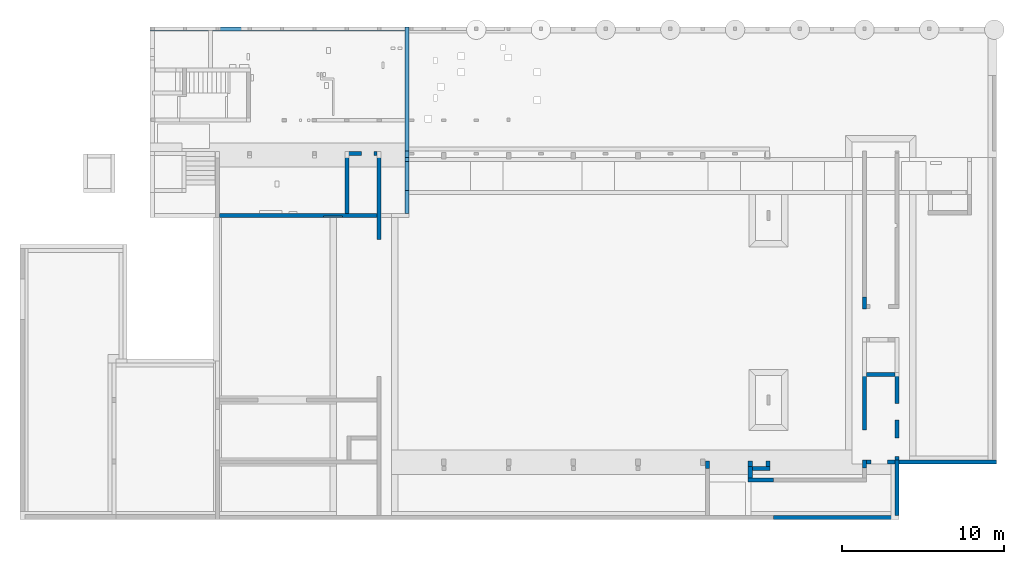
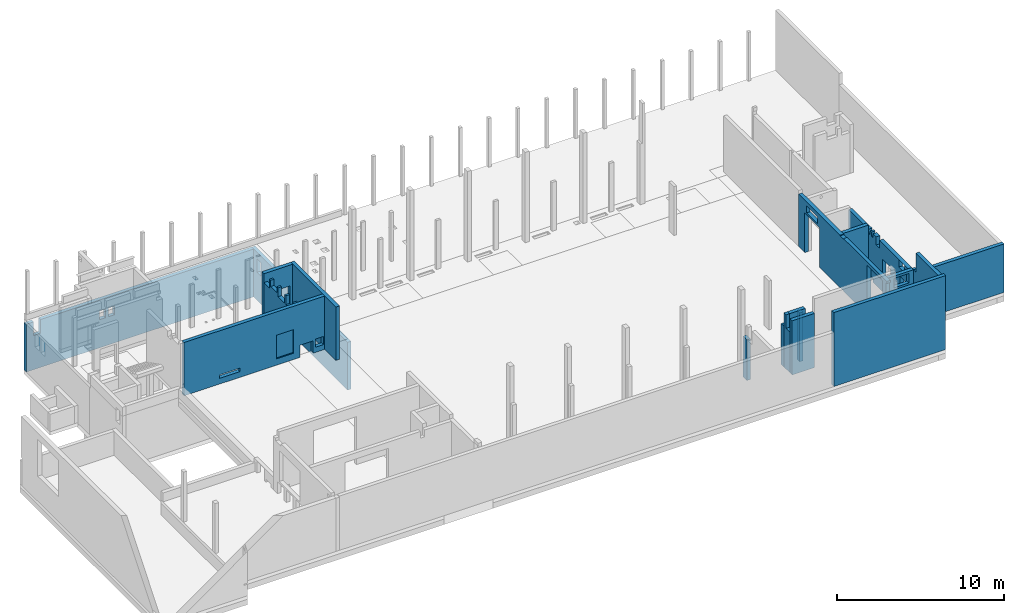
# One storey, part 8 of 12: 19 walls, 35 openings.
"""IFC2X3 building model written with IfcOpenShell, lengths in metres."""

from ifc_helpers import new_model, entity, si_unit, converted_unit, direction, frame, frame_2d, origin, origin_2d_with_axis, place, context, subcontext, project, spatial, polyline, rectangle, extrude, clip, halfspace, bounded_halfspace, material, layer, layer_set, layer_usage, type_object, element, save


model = new_model("IFC2X3")

# Units and contexts
model_context = context("Model", 3, precision=1e-05, world=frame((30.086303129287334, 2.687674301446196, 462.0)), true_north=direction((0.19008937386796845, 0.9817667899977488)))
body_context = subcontext(model_context, "Body", "Model", "MODEL_VIEW")
ifc_project = project(units=[si_unit("LENGTHUNIT", "METRE"), si_unit("AREAUNIT", "SQUARE_METRE"), converted_unit("PLANEANGLEUNIT", "DEGREE", entity("IfcPlaneAngleMeasure", 0.017453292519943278), si_unit("PLANEANGLEUNIT", "RADIAN"), dimensions=[0, 0, 0, 0, 0, 0, 0]), si_unit("VOLUMEUNIT", "CUBIC_METRE")], contexts=[model_context])

# Site, building, storey
site_placement = place(None, origin())
site = spatial("IfcSite", under=ifc_project, at=site_placement, Name="Default", CompositionType="ELEMENT")
building_placement = place(site_placement, origin())
building = spatial("IfcBuilding", under=site, at=building_placement, CompositionType="ELEMENT")
storey_placement = place(building_placement, frame((0.0, 0.0, -3.800000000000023)))
storey = spatial("IfcBuildingStorey", under=building, at=storey_placement, Name="FB_U01_OKFB", CompositionType="ELEMENT", Elevation=-3.800000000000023)

# Wall, openings
ifc_material_1 = material(Name="WS_CONCRETE_REINFORCED_WATERTIGHT")
ifc_layer_1 = layer(ifc_material_1, 0.24999999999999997)
ifc_layer_set_1 = layer_set([ifc_layer_1], Name="Basiswand:WS_WAL_CON_250_WT")
ifc_layer_usage_1 = layer_usage(ifc_layer_set_1, "AXIS2", "NEGATIVE", 0.12499999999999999)
wall_type_1 = type_object("IfcWallType", Name="Basiswand:WS_WAL_CON_250_WT", PredefinedType="STANDARD", material=ifc_layer_set_1)
wall_1_placement = place(storey_placement, frame((45.95533900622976, 6.390350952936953, -0.0699999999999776)))
wall_1 = element("IfcWallStandardCase", 1, at=wall_1_placement, inside=storey, type_object=wall_type_1, material=ifc_layer_usage_1, Name="Basiswand:WS_WAL_CON_250_WT", ObjectType="Basiswand:WS_WAL_CON_250_WT", context=body_context, shape_type="SweptSolid", body=[
    extrude(rectangle(XDim=15.749999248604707, YDim=0.24999999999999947, at=frame_2d((7.874999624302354, 0.0), x_axis=(-1.0, 0.0))), origin(), (0.0, 0.0, 1.0), 3.500000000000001),
])
opening_1_placement = place(wall_1_placement, origin())
element("IfcOpeningElement", 2, at=opening_1_placement, cuts=wall_1, Name="Basiswand:WS_WAL_CON_250_WT", ObjectType="Opening", context=body_context, shape_type="SweptSolid", body=[
    extrude(rectangle(XDim=0.9999999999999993, YDim=0.499999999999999, at=frame_2d((-1.3877787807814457e-16, 4.343747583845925e-15), x_axis=(1.0, 0.0))), frame((0.7500000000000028, -0.12499999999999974, 3.0), z_axis=(0.0, 1.0, 0.0), x_axis=(0.0, 0.0, -1.0)), (0.0, 0.0, 1.0), 0.2499999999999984),
])
opening_2_placement = place(wall_1_placement, origin())
element("IfcOpeningElement", 3, at=opening_2_placement, cuts=wall_1, Name="Basiswand:WS_WAL_CON_250_WT", ObjectType="Opening", context=body_context, shape_type="SweptSolid", body=[
    extrude(rectangle(XDim=0.640000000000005, YDim=0.4249999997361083, at=frame_2d((1.1102230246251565e-16, 4.3298697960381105e-15), x_axis=(1.0, 0.0))), frame((5.907497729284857, -0.12499999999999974, 2.3799999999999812), z_axis=(0.0, 1.0, 0.0), x_axis=(0.0, 0.0, -1.0)), (0.0, 0.0, 1.0), 0.2499999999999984),
])
opening_3_placement = place(wall_1_placement, origin())
element("IfcOpeningElement", 4, at=opening_3_placement, cuts=wall_1, Name="Basiswand:WS_WAL_CON_250_WT", ObjectType="Opening", context=body_context, shape_type="SweptSolid", body=[
    extrude(rectangle(XDim=0.640000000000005, YDim=0.4249999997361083, at=frame_2d((1.1102230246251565e-16, -4.3298697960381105e-15), x_axis=(1.0, 0.0))), frame((5.282497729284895, -0.12499999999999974, 2.3799999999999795), z_axis=(0.0, 1.0, 0.0), x_axis=(0.0, 0.0, -1.0)), (0.0, 0.0, 1.0), 0.2499999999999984),
])

ifc_layer_usage_2 = layer_usage(ifc_layer_set_1, "AXIS2", "NEGATIVE", 0.12499999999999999)
wall_2_placement = place(storey_placement, frame((61.83033825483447, 6.515350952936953, -0.0699999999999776), z_axis=(0.0, 0.0, 1.0), x_axis=(0.0, -1.0, 0.0)))
wall_2 = element("IfcWallStandardCase", 5, at=wall_2_placement, inside=storey, type_object=wall_type_1, material=ifc_layer_usage_2, Name="Basiswand:WS_WAL_CON_250_WT", ObjectType="Basiswand:WS_WAL_CON_250_WT", context=body_context, shape_type="SweptSolid", body=[
    extrude(rectangle(XDim=11.524999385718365, YDim=0.25000000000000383, at=frame_2d((5.762499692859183, -4.336808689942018e-15), x_axis=(-1.0, 0.0))), origin(), (0.0, 0.0, 1.0), 3.500000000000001),
])
opening_4_placement = place(wall_2_placement, origin())
element("IfcOpeningElement", 6, at=opening_4_placement, cuts=wall_2, Name="Basiswand:WS_WAL_CON_250_WT", ObjectType="Opening", context=body_context, shape_type="SweptSolid", body=[
    extrude(rectangle(XDim=1.3999999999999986, YDim=1.7999999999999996, at=frame_2d((0.0, 2.220446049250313e-16), x_axis=(1.0, 0.0))), frame((9.194959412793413, -0.12499999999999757, 2.799999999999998), z_axis=(0.0, 1.0, 0.0), x_axis=(0.0, 0.0, -1.0)), (0.0, 0.0, 1.0), 0.24999999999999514),
])
opening_5_placement = place(wall_2_placement, origin())
element("IfcOpeningElement", 7, at=opening_5_placement, cuts=wall_2, Name="Basiswand:WS_WAL_CON_250_WT", ObjectType="Opening", context=body_context, shape_type="SweptSolid", body=[
    extrude(rectangle(XDim=1.1999999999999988, YDim=0.39999999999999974, at=frame_2d((0.0, 1.3877787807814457e-16), x_axis=(1.0, 0.0))), frame((7.844959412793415, -0.12499999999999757, 2.899999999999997), z_axis=(0.0, 1.0, 0.0), x_axis=(0.0, 0.0, -1.0)), (0.0, 0.0, 1.0), 0.24999999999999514),
])
opening_6_placement = place(wall_2_placement, origin())
element("IfcOpeningElement", 8, at=opening_6_placement, cuts=wall_2, Name="Basiswand:WS_WAL_CON_250_WT", ObjectType="Opening", context=body_context, shape_type="SweptSolid", body=[
    extrude(rectangle(XDim=0.9999999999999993, YDim=0.5, at=frame_2d((-1.3877787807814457e-16, 0.0), x_axis=(1.0, 0.0))), frame((0.9100000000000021, -0.12499999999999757, 2.5499999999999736), z_axis=(0.0, 1.0, 0.0), x_axis=(0.0, 0.0, -1.0)), (0.0, 0.0, 1.0), 0.24999999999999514),
])

# Walls
ifc_layer_usage_3 = layer_usage(ifc_layer_set_1, "AXIS2", "POSITIVE", -0.12499999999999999)
wall_3_placement = place(storey_placement, frame((92.23033873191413, -20.35964897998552, 3.6800000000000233)))
element("IfcWallStandardCase", 9, at=wall_3_placement, inside=storey, type_object=wall_type_1, material=ifc_layer_usage_3, Name="Basiswand:WS_WAL_CON_250_WT", ObjectType="Basiswand:WS_WAL_CON_250_WT", context=body_context, shape_type="SweptSolid", body=[
    extrude(rectangle(XDim=6.024999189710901, YDim=0.2500000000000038, at=frame_2d((3.0124995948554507, 3.608224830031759e-16), x_axis=(-1.0, 0.0))), origin(), (0.0, 0.0, 1.0), 3.55),
])
ifc_layer_usage_4 = layer_usage(ifc_layer_set_1, "AXIS2", "POSITIVE", -0.12499999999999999)
wall_4_placement = place(storey_placement, frame((84.48033873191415, -23.78965501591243, 3.6800000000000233)))
element("IfcWallStandardCase", 10, at=wall_4_placement, inside=storey, type_object=wall_type_1, material=ifc_layer_usage_4, Name="Basiswand:WS_WAL_CON_250_WT", ObjectType="Basiswand:WS_WAL_CON_250_WT", context=body_context, shape_type="SweptSolid", body=[
    extrude(rectangle(XDim=7.7499999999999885, YDim=0.2500000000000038, at=frame_2d((3.8749999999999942, -5.134781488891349e-16), x_axis=(-1.0, 0.0))), origin(), (0.0, 0.0, 1.0), 5.419999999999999),
])

# Wall, opening
ifc_layer_usage_5 = layer_usage(ifc_layer_set_1, "AXIS2", "POSITIVE", -0.12499999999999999)
wall_5_placement = place(storey_placement, frame((92.10533873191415, -23.664656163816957, 3.6800000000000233), z_axis=(0.0, 0.0, 1.0), x_axis=(0.0, 1.0, 0.0)))
wall_5 = element("IfcWallStandardCase", 11, at=wall_5_placement, inside=storey, type_object=wall_type_1, material=ifc_layer_usage_5, Name="Basiswand:WS_WAL_CON_250_WT", ObjectType="Basiswand:WS_WAL_CON_250_WT", context=body_context, shape_type="Clipping", body=[
    clip(clip(clip(extrude(rectangle(XDim=3.4300071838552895, YDim=0.25000000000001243, at=frame_2d((1.7150035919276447, 2.3037127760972e-15), x_axis=(-1.0, 0.0))), origin(), (0.0, 0.0, 1.0), 5.239999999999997), bounded_halfspace(frame((3.1800071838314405, 0.12500000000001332, 3.8), z_axis=(0.0, 0.0, -1.0), x_axis=(0.0, 1.0, 0.0)), True, frame((3.1800071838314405, 0.12500000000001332, 3.8), z_axis=(0.0, 0.0, -1.0), x_axis=(0.0, 1.0, 0.0)), polyline([(0.0, 0.0), (0.0, 0.2500000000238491), (-0.24999999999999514, 0.25000000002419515), (-0.24999999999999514, 0.0), (0.0, 0.0)]))), bounded_halfspace(frame((3.1800071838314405, -0.12499999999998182, 3.8), z_axis=(-1.0, 0.0, 0.0), x_axis=(0.0, 1.0, 0.0)), True, frame((3.1800071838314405, -0.12499999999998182, 3.8), z_axis=(-1.0, 0.0, 0.0), x_axis=(0.0, 1.0, 0.0)), polyline([(0.0, 0.0), (0.0, -0.016763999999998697), (0.07619999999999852, -0.016763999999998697), (0.07619999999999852, 0.0), (0.0, 0.0)]))), halfspace(frame((0.0, -0.12499999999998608, 5.239999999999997), z_axis=(0.0, 0.0, 1.0), x_axis=(0.0, 1.0, 0.0)), False)),
])
opening_7_placement = place(wall_5_placement, origin())
element("IfcOpeningElement", 12, at=opening_7_placement, cuts=wall_5, Name="Basiswand:WS_WAL_CON_250_WT", ObjectType="Opening", context=body_context, shape_type="SweptSolid", body=[
    extrude(rectangle(XDim=1.3850000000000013, YDim=0.4049109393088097, at=origin_2d_with_axis()), frame((3.1025517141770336, 0.1250000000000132, 4.547499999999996), z_axis=(0.0, -1.0, 0.0), x_axis=(0.0, 0.0, 1.0)), (0.0, 0.0, 1.0), 0.24999999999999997),
])

# Wall
ifc_material_2 = material(Name="WS_CONCRETE_REINFORCED")
ifc_layer_2 = layer(ifc_material_2, 0.24999999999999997)
ifc_layer_set_2 = layer_set([ifc_layer_2], Name="Basiswand:WS_WAL_CON_250")
ifc_layer_usage_6 = layer_usage(ifc_layer_set_2, "AXIS2", "NEGATIVE", 0.12499999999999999)
wall_type_2 = type_object("IfcWallType", Name="Basiswand:WS_WAL_CON_250", PredefinedType="STANDARD", material=ifc_layer_set_2)
wall_6_placement = place(storey_placement, frame((91.98033873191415, -14.95964891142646, 3.6800000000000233), z_axis=(0.0, 0.0, 1.0), x_axis=(-1.0, 0.0, 0.0)))
element("IfcWallStandardCase", 13, at=wall_6_placement, inside=storey, type_object=wall_type_2, material=ifc_layer_usage_6, Name="Basiswand:WS_WAL_CON_250", ObjectType="Basiswand:WS_WAL_CON_250", context=body_context, shape_type="SweptSolid", body=[
    extrude(rectangle(XDim=1.750001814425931, YDim=0.2499999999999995, at=frame_2d((0.8750009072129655, 9.71445146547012e-17), x_axis=(-1.0, 0.0))), origin(), (0.0, 0.0, 1.0), 3.8549999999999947),
])

# Wall, opening
ifc_layer_usage_7 = layer_usage(ifc_layer_set_2, "AXIS2", "POSITIVE", -0.12499999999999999)
wall_7_placement = place(storey_placement, frame((83.04533735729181, -21.36465616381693, 3.6800000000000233), z_axis=(0.0, 0.0, 1.0), x_axis=(0.0, 1.0, 0.0)))
wall_7 = element("IfcWallStandardCase", 14, at=wall_7_placement, inside=storey, type_object=wall_type_2, material=ifc_layer_usage_7, Name="Basiswand:WS_WAL_CON_250", ObjectType="Basiswand:WS_WAL_CON_250", context=body_context, shape_type="SweptSolid", body=[
    extrude(rectangle(XDim=0.7250962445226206, YDim=0.2500000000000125, at=frame_2d((0.3625481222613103, 0.0), x_axis=(-1.0, 0.0))), origin(), (0.0, 0.0, 1.0), 3.9699999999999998),
])
opening_8_placement = place(wall_7_placement, origin())
element("IfcOpeningElement", 15, at=opening_8_placement, cuts=wall_7, Name="Basiswand:WS_WAL_CON_250", ObjectType="Opening", context=body_context, shape_type="SweptSolid", body=[
    extrude(rectangle(XDim=0.989999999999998, YDim=0.4750481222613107, at=frame_2d((2.7755575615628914e-16, 0.0), x_axis=(1.0, 0.0))), frame((0.23757218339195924, -0.12500000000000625, 3.4749999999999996), z_axis=(0.0, 1.0, 0.0), x_axis=(0.0, 0.0, -1.0)), (0.0, 0.0, 1.0), 0.2500000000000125),
])

# Wall
ifc_layer_usage_8 = layer_usage(ifc_layer_set_2, "AXIS2", "POSITIVE", -0.12499999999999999)
wall_8_placement = place(storey_placement, frame((60.105337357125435, -6.599648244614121, 3.6800000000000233), z_axis=(0.0, 0.0, 1.0), x_axis=(0.0, 1.0, 0.0)))
element("IfcWallStandardCase", 16, at=wall_8_placement, inside=storey, type_object=wall_type_2, material=ifc_layer_usage_8, Name="Basiswand:WS_WAL_CON_250", ObjectType="Basiswand:WS_WAL_CON_250", context=body_context, shape_type="SweptSolid", body=[
    extrude(rectangle(XDim=5.4300004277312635, YDim=0.24999999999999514, at=frame_2d((2.7150002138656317, 1.942890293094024e-16), x_axis=(-1.0, 0.0))), origin(), (0.0, 0.0, 1.0), 3.905),
])

# Wall, openings
ifc_layer_usage_9 = layer_usage(ifc_layer_set_2, "AXIS2", "POSITIVE", -0.12499999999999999)
wall_9_placement = place(storey_placement, frame((59.98033735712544, -1.294647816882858, 3.6800000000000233), z_axis=(0.0, 0.0, 1.0), x_axis=(-1.0, 0.0, 0.0)))
wall_9 = element("IfcWallStandardCase", 17, at=wall_9_placement, inside=storey, type_object=wall_type_2, material=ifc_layer_usage_9, Name="Basiswand:WS_WAL_CON_250", ObjectType="Basiswand:WS_WAL_CON_250", context=body_context, shape_type="SweptSolid", body=[
    extrude(rectangle(XDim=1.9999958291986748, YDim=0.25, at=frame_2d((0.9999979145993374, 0.0), x_axis=(-1.0, 0.0))), origin(), (0.0, 0.0, 1.0), 3.905),
])
opening_9_placement = place(wall_9_placement, origin())
element("IfcOpeningElement", 18, at=opening_9_placement, cuts=wall_9, Name="Basiswand:WS_WAL_CON_250", ObjectType="Opening", context=body_context, shape_type="SweptSolid", body=[
    extrude(rectangle(XDim=0.6499999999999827, YDim=0.24999999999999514, at=frame_2d((2.7755575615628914e-16, 4.336808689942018e-15), x_axis=(1.0, 0.0))), frame((1.8749958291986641, 0.12430404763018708, 3.5799999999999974), z_axis=(0.0, 1.0, 0.0), x_axis=(0.0, 0.0, -1.0)), (0.0, 0.0, 1.0), 0.6500000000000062),
])
opening_10_placement = place(wall_9_placement, frame((59.98033735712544, -1.294647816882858, -3.6800000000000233), z_axis=(0.0, 0.0, 1.0), x_axis=(-1.0, 0.0, 0.0)))
element("IfcOpeningElement", 19, at=opening_10_placement, cuts=wall_9, Name="Basiswand:WS_WAL_CON_250", ObjectType="Opening", context=body_context, shape_type="SweptSolid", body=[
    extrude(rectangle(XDim=2.384999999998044, YDim=0.7699999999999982, at=frame_2d((0.0, 0.0), x_axis=(0.0, 1.0))), frame((59.39533735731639, 0.354352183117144, 4.872499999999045), z_axis=(0.0, -1.0, 0.0), x_axis=(1.0, 0.0, 0.0)), (0.0, 0.0, 1.0), 3.048),
])

ifc_layer_usage_10 = layer_usage(ifc_layer_set_2, "AXIS2", "POSITIVE", -0.12499999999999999)
wall_10_placement = place(storey_placement, frame((58.105341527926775, -1.4196478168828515, 3.6800000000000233), z_axis=(0.0, 0.0, 1.0), x_axis=(0.0, -1.0, 0.0)))
wall_10 = element("IfcWallStandardCase", 20, at=wall_10_placement, inside=storey, type_object=wall_type_2, material=ifc_layer_usage_10, Name="Basiswand:WS_WAL_CON_250", ObjectType="Basiswand:WS_WAL_CON_250", context=body_context, shape_type="SweptSolid", body=[
    extrude(rectangle(XDim=3.5900007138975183, YDim=0.25000000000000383, at=frame_2d((1.7950003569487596, -4.350686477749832e-15), x_axis=(-1.0, 0.0))), origin(), (0.0, 0.0, 1.0), 3.9050000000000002),
])
opening_11_placement = place(wall_10_placement, origin())
element("IfcOpeningElement", 21, at=opening_11_placement, cuts=wall_10, Name="Basiswand:WS_WAL_CON_250", ObjectType="Opening", context=body_context, shape_type="SweptSolid", body=[
    extrude(rectangle(XDim=0.6499999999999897, YDim=0.8, at=origin_2d_with_axis()), frame((3.0493505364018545, -0.12499999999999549, 3.5800000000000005), z_axis=(0.0, 1.0, 0.0), x_axis=(0.0, 0.0, -1.0)), (0.0, 0.0, 1.0), 0.24999999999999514),
])
opening_12_placement = place(wall_10_placement, origin())
element("IfcOpeningElement", 22, at=opening_12_placement, cuts=wall_10, Name="Basiswand:WS_WAL_CON_250", ObjectType="Opening", context=body_context, shape_type="SweptSolid", body=[
    extrude(rectangle(XDim=0.6499999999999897, YDim=0.8, at=origin_2d_with_axis()), frame((2.0993505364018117, -0.12499999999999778, 3.5800000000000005), z_axis=(0.0, 1.0, 0.0), x_axis=(0.0, 0.0, -1.0)), (0.0, 0.0, 1.0), 0.24999999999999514),
])
opening_13_placement = place(wall_10_placement, origin())
element("IfcOpeningElement", 23, at=opening_13_placement, cuts=wall_10, Name="Basiswand:WS_WAL_CON_250", ObjectType="Opening", context=body_context, shape_type="SweptSolid", body=[
    extrude(rectangle(XDim=0.44999999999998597, YDim=0.7499999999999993, at=frame_2d((-2.636779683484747e-16, 2.7755575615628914e-16), x_axis=(1.0, 0.0))), frame((1.1743041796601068, -0.12499999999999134, 3.6799999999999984), z_axis=(0.0, 1.0, 0.0), x_axis=(0.0, 0.0, -1.0)), (0.0, 0.0, 1.0), 0.24999999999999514),
])
opening_14_placement = place(wall_10_placement, origin())
element("IfcOpeningElement", 24, at=opening_14_placement, cuts=wall_10, Name="Basiswand:WS_WAL_CON_250", ObjectType="Opening", context=body_context, shape_type="SweptSolid", body=[
    extrude(rectangle(XDim=0.6499999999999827, YDim=0.6500000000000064, at=frame_2d((2.7755575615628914e-16, -1.3877787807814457e-16), x_axis=(1.0, 0.0))), frame((0.32430404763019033, -0.12499999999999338, 3.579999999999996), z_axis=(0.0, 1.0, 0.0), x_axis=(0.0, 0.0, -1.0)), (0.0, 0.0, 1.0), 0.24999999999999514),
])

ifc_layer_usage_11 = layer_usage(ifc_layer_set_2, "AXIS2", "NEGATIVE", 0.12499999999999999)
wall_11_placement = place(storey_placement, frame((59.980337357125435, -5.1346485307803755, 3.6800000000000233), z_axis=(0.0, 0.0, 1.0), x_axis=(-1.0, 0.0, 0.0)))
wall_11 = element("IfcWallStandardCase", 25, at=wall_11_placement, inside=storey, type_object=wall_type_2, material=ifc_layer_usage_11, Name="Basiswand:WS_WAL_CON_250", ObjectType="Basiswand:WS_WAL_CON_250", context=body_context, shape_type="SweptSolid", body=[
    extrude(rectangle(XDim=9.74999992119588, YDim=0.24999999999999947, at=frame_2d((4.87499996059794, 0.0), x_axis=(1.0, 0.0))), origin(), (0.0, 0.0, 1.0), 3.905),
])
opening_15_placement = place(wall_11_placement, origin())
element("IfcOpeningElement", 26, at=opening_15_placement, cuts=wall_11, Name="Basiswand:WS_WAL_CON_250", ObjectType="Opening", context=body_context, shape_type="SweptSolid", body=[
    extrude(rectangle(XDim=0.9000000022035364, YDim=0.9000001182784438, at=frame_2d((-5.551115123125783e-17, 4.3298697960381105e-15), x_axis=(1.0, 0.0))), frame((1.2499957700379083, -0.12500000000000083, 0.4500000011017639), z_axis=(0.0, 1.0, 0.0), x_axis=(0.0, 0.0, -1.0)), (0.0, 0.0, 1.0), 0.2499999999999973),
])
opening_16_placement = place(wall_11_placement, origin())
element("IfcOpeningElement", 27, at=opening_16_placement, cuts=wall_11, Name="Basiswand:WS_WAL_CON_250", ObjectType="Opening", context=body_context, shape_type="SweptSolid", body=[
    extrude(rectangle(XDim=0.5999999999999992, YDim=0.5500000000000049, at=frame_2d((-5.551115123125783e-17, -4.3298697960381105e-15), x_axis=(1.0, 0.0))), frame((0.3750000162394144, -0.12499999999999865, 0.6700000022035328), z_axis=(0.0, 1.0, 0.0), x_axis=(0.0, 0.0, -1.0)), (0.0, 0.0, 1.0), 0.24999999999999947),
])
opening_17_placement = place(wall_11_placement, origin())
element("IfcOpeningElement", 28, at=opening_17_placement, cuts=wall_11, Name="Basiswand:WS_WAL_CON_250", ObjectType="Opening", context=body_context, shape_type="SweptSolid", body=[
    extrude(rectangle(XDim=0.24999999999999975, YDim=1.4000000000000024, at=frame_2d((0.0, 4.3298697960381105e-15), x_axis=(1.0, 0.0))), frame((6.579999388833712, -0.12500000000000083, 0.5499999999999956), z_axis=(0.0, 1.0, 0.0), x_axis=(0.0, 0.0, -1.0)), (0.0, 0.0, 1.0), 0.2499999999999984),
])
opening_18_placement = place(wall_11_placement, origin())
element("IfcOpeningElement", 29, at=opening_18_placement, cuts=wall_11, Name="Basiswand:WS_WAL_CON_250", ObjectType="Recess", context=body_context, shape_type="SweptSolid", body=[
    extrude(rectangle(XDim=1.7299999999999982, YDim=1.1800000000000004, at=frame_2d((0.0, 0.0), x_axis=(0.0, 1.0))), frame((2.739995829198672, 0.04000000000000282, 1.334999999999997), z_axis=(0.0, 1.0, 0.0), x_axis=(1.0, 0.0, 0.0)), (0.0, 0.0, 1.0), 0.08499999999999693),
])

ifc_layer_usage_12 = layer_usage(ifc_layer_set_2, "AXIS2", "POSITIVE", -0.12499999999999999)
wall_12_placement = place(storey_placement, frame((92.10533873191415, -20.234648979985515, 3.6800000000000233), z_axis=(0.0, 0.0, 1.0), x_axis=(0.0, 1.0, 0.0)))
wall_12 = element("IfcWallStandardCase", 30, at=wall_12_placement, inside=storey, type_object=wall_type_2, material=ifc_layer_usage_12, Name="Basiswand:WS_WAL_CON_250", ObjectType="Basiswand:WS_WAL_CON_250", context=body_context, shape_type="SweptSolid", body=[
    extrude(rectangle(XDim=7.54999938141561, YDim=0.25000000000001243, at=frame_2d((3.774999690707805, -3.594347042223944e-15), x_axis=(-1.0, 0.0))), origin(), (0.0, 0.0, 1.0), 3.5500000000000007),
])
opening_19_placement = place(wall_12_placement, origin())
element("IfcOpeningElement", 31, at=opening_19_placement, cuts=wall_12, Name="Basiswand:WS_WAL_CON_250", ObjectType="Opening", context=body_context, shape_type="SweptSolid", body=[
    extrude(rectangle(XDim=0.2999999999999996, YDim=0.29999999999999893, at=frame_2d((0.0, 1.0824674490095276e-15), x_axis=(1.0, 0.0))), frame((4.749999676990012, -0.12500000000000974, 0.14999999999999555), z_axis=(0.0, 1.0, 0.0), x_axis=(0.0, 0.0, -1.0)), (0.0, 0.0, 1.0), 0.2500000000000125),
])
opening_20_placement = place(wall_12_placement, origin())
element("IfcOpeningElement", 32, at=opening_20_placement, cuts=wall_12, Name="Basiswand:WS_WAL_CON_250", ObjectType="Opening", context=body_context, shape_type="SweptSolid", body=[
    extrude(rectangle(XDim=0.5999999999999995, YDim=0.4, at=frame_2d((2.7755575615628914e-16, -1.0824674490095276e-15), x_axis=(1.0, 0.0))), frame((4.0250019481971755, -0.1250000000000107, 3.249999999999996), z_axis=(0.0, 1.0, 0.0), x_axis=(0.0, 0.0, -1.0)), (0.0, 0.0, 1.0), 0.2500000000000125),
])
opening_21_placement = place(wall_12_placement, origin())
element("IfcOpeningElement", 33, at=opening_21_placement, cuts=wall_12, Name="Basiswand:WS_WAL_CON_250", ObjectType="Opening", context=body_context, shape_type="SweptSolid", body=[
    extrude(rectangle(XDim=0.2999999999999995, YDim=0.2, at=frame_2d((2.636779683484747e-16, 0.0), x_axis=(1.0, 0.0))), frame((4.700000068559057, -0.1250000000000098, 3.399999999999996), z_axis=(0.0, 1.0, 0.0), x_axis=(0.0, 0.0, -1.0)), (0.0, 0.0, 1.0), 0.2500000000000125),
])
opening_22_placement = place(wall_12_placement, origin())
element("IfcOpeningElement", 34, at=opening_22_placement, cuts=wall_12, Name="Basiswand:WS_WAL_CON_250", ObjectType="Opening", context=body_context, shape_type="SweptSolid", body=[
    extrude(rectangle(XDim=0.2999999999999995, YDim=0.2, at=frame_2d((2.636779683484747e-16, 0.0), x_axis=(1.0, 0.0))), frame((5.050000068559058, -0.12500000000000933, 3.399999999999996), z_axis=(0.0, 1.0, 0.0), x_axis=(0.0, 0.0, -1.0)), (0.0, 0.0, 1.0), 0.2500000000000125),
])
opening_23_placement = place(wall_12_placement, origin())
element("IfcOpeningElement", 35, at=opening_23_placement, cuts=wall_12, Name="Basiswand:WS_WAL_CON_250", ObjectType="Opening", context=body_context, shape_type="SweptSolid", body=[
    extrude(rectangle(XDim=0.5499999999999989, YDim=0.7000000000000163, at=origin_2d_with_axis()), frame((1.1483404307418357, -0.12499999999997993, 3.269999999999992), z_axis=(0.0, 1.0, 0.0), x_axis=(0.0, 0.0, -1.0)), (0.0, 0.0, 1.0), 0.2500000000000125),
])
opening_24_placement = place(wall_12_placement, frame((20.234648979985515, 92.10533873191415, -3.6800000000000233), z_axis=(0.0, 0.0, 1.0), x_axis=(0.0, -1.0, 0.0)))
element("IfcOpeningElement", 36, at=opening_24_placement, cuts=wall_12, Name="Basiswand:WS_WAL_CON_250", ObjectType="Opening", context=body_context, shape_type="SweptSolid", body=[
    extrude(rectangle(XDim=2.384999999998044, YDim=1.0099999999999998, at=frame_2d((0.0, 2.1649348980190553e-15), x_axis=(1.0, 0.0))), frame((93.50433873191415, -17.254590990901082, 4.872499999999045), z_axis=(-1.0, 0.0, 0.0), x_axis=(0.0, 0.0, 1.0)), (0.0, 0.0, 1.0), 3.048),
])
opening_25_placement = place(wall_12_placement, frame((20.234648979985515, 92.10533873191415, -3.6800000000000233), z_axis=(0.0, 0.0, 1.0), x_axis=(0.0, -1.0, 0.0)))
element("IfcOpeningElement", 37, at=opening_25_placement, cuts=wall_12, Name="Basiswand:WS_WAL_CON_250", ObjectType="Opening", context=body_context, shape_type="SweptSolid", body=[
    extrude(rectangle(XDim=2.384999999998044, YDim=1.1449999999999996, at=origin_2d_with_axis()), frame((93.50433873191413, -19.462148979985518, 4.872499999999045), z_axis=(-1.0, 0.0, 0.0), x_axis=(0.0, 0.0, 1.0)), (0.0, 0.0, 1.0), 3.048),
])

# Walls
ifc_layer_usage_13 = layer_usage(ifc_layer_set_2, "AXIS2", "POSITIVE", -0.12499999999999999)
wall_13_placement = place(storey_placement, frame((84.2553373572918, -20.764559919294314, 3.6800000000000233), z_axis=(0.0, 0.0, 1.0), x_axis=(-1.0, 0.0, 0.0)))
element("IfcWallStandardCase", 38, at=wall_13_placement, inside=storey, type_object=wall_type_2, material=ifc_layer_usage_13, Name="Basiswand:WS_WAL_CON_250", ObjectType="Basiswand:WS_WAL_CON_250", context=body_context, shape_type="SweptSolid", body=[
    extrude(rectangle(XDim=1.084999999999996, YDim=0.2500000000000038, at=frame_2d((0.542499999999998, -4.579669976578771e-16), x_axis=(-1.0, 0.0))), origin(), (0.0, 0.0, 1.0), 3.969999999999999),
])
ifc_layer_usage_14 = layer_usage(ifc_layer_set_2, "AXIS2", "POSITIVE", -0.12499999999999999)
wall_14_placement = place(storey_placement, frame((83.04533735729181, -20.639559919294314, 3.6800000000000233), z_axis=(0.0, 0.0, 1.0), x_axis=(0.0, 1.0, 0.0)))
element("IfcWallStandardCase", 39, at=wall_14_placement, inside=storey, type_object=wall_type_2, material=ifc_layer_usage_14, Name="Basiswand:WS_WAL_CON_250", ObjectType="Basiswand:WS_WAL_CON_250", context=body_context, shape_type="SweptSolid", body=[
    extrude(rectangle(XDim=0.3399665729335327, YDim=0.2500000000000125, at=frame_2d((0.16998328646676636, 0.0), x_axis=(-1.0, 0.0))), origin(), (0.0, 0.0, 1.0), 2.9799999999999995),
])
ifc_layer_usage_15 = layer_usage(ifc_layer_set_2, "AXIS2", "POSITIVE", -0.12499999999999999)
wall_15_placement = place(storey_placement, frame((80.4103372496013, -20.764559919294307, 3.6800000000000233), z_axis=(0.0, 0.0, 1.0), x_axis=(0.0, 1.0, 0.0)))
element("IfcWallStandardCase", 40, at=wall_15_placement, inside=storey, type_object=wall_type_2, material=ifc_layer_usage_15, Name="Basiswand:WS_WAL_CON_250", ObjectType="Basiswand:WS_WAL_CON_250", context=body_context, shape_type="SweptSolid", body=[
    extrude(rectangle(XDim=0.46496657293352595, YDim=0.2500000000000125, at=frame_2d((0.23248328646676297, 0.0), x_axis=(-1.0, 0.0))), origin(), (0.0, 0.0, 1.0), 2.9799999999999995),
])
ifc_layer_usage_16 = layer_usage(ifc_layer_set_2, "AXIS2", "POSITIVE", -0.12499999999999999)
wall_16_placement = place(storey_placement, frame((84.48033873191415, -21.489656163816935, 3.6800000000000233), z_axis=(0.0, 0.0, 1.0), x_axis=(-1.0, 0.0, 0.0)))
element("IfcWallStandardCase", 41, at=wall_16_placement, inside=storey, type_object=wall_type_2, material=ifc_layer_usage_16, Name="Basiswand:WS_WAL_CON_250", ObjectType="Basiswand:WS_WAL_CON_250", context=body_context, shape_type="SweptSolid", body=[
    extrude(rectangle(XDim=1.5600013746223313, YDim=0.25000000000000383, at=frame_2d((0.7800006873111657, -1.8665624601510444e-15), x_axis=(-1.0, 0.0))), origin(), (0.0, 0.0, 1.0), 3.969999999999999),
])

# Wall, openings
ifc_layer_usage_17 = layer_usage(ifc_layer_set_2, "AXIS2", "POSITIVE", -0.12499999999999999)
wall_17_placement = place(storey_placement, frame((90.10533691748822, -20.749559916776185, 3.6800000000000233), z_axis=(0.0, 0.0, 1.0), x_axis=(0.0, 1.0, 0.0)))
wall_17 = element("IfcWallStandardCase", 42, at=wall_17_placement, inside=storey, type_object=wall_type_2, material=ifc_layer_usage_17, Name="Basiswand:WS_WAL_CON_250", ObjectType="Basiswand:WS_WAL_CON_250", context=body_context, shape_type="SweptSolid", body=[
    extrude(rectangle(XDim=10.575, YDim=0.25000000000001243, at=frame_2d((5.2875, -1.8041124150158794e-16), x_axis=(-1.0, 0.0))), origin(), (0.0, 0.0, 1.0), 3.8549999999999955),
])
opening_26_placement = place(wall_17_placement, origin())
element("IfcOpeningElement", 43, at=opening_26_placement, cuts=wall_17, Name="Basiswand:WS_WAL_CON_250", ObjectType="Opening", context=body_context, shape_type="SweptSolid", body=[
    extrude(rectangle(XDim=0.6999999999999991, YDim=0.6999999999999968, at=frame_2d((0.0, -2.1649348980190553e-15), x_axis=(1.0, 0.0))), frame((-0.2650962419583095, -0.1250000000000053, 3.350000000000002), z_axis=(0.0, 1.0, 0.0), x_axis=(0.0, 0.0, -1.0)), (0.0, 0.0, 1.0), 0.2500000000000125),
])
opening_27_placement = place(wall_17_placement, origin())
element("IfcOpeningElement", 44, at=opening_27_placement, cuts=wall_17, Name="Basiswand:WS_WAL_CON_250", ObjectType="Opening", context=body_context, shape_type="SweptSolid", body=[
    extrude(rectangle(XDim=0.2000000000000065, YDim=0.3999999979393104, at=frame_2d((-5.412337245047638e-16, 2.1649348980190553e-15), x_axis=(1.0, 0.0))), frame((5.390567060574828, -0.12499999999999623, 3.9149999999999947), z_axis=(0.0, 1.0, 0.0), x_axis=(0.0, 0.0, -1.0)), (0.0, 0.0, 1.0), 0.2500000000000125),
])
opening_28_placement = place(wall_17_placement, origin())
element("IfcOpeningElement", 45, at=opening_28_placement, cuts=wall_17, Name="Basiswand:WS_WAL_CON_250", ObjectType="Opening", context=body_context, shape_type="SweptSolid", body=[
    extrude(rectangle(XDim=0.0400000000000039, YDim=0.3999999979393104, at=frame_2d((8.673617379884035e-18, -1.0824674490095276e-15), x_axis=(1.0, 0.0))), frame((5.390567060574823, -0.12499999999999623, 0.020000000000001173), z_axis=(0.0, 1.0, 0.0), x_axis=(0.0, 0.0, -1.0)), (0.0, 0.0, 1.0), 0.2500000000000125),
])
opening_29_placement = place(wall_17_placement, origin())
element("IfcOpeningElement", 46, at=opening_29_placement, cuts=wall_17, Name="Basiswand:WS_WAL_CON_250", ObjectType="Opening", context=body_context, shape_type="SweptSolid", body=[
    extrude(rectangle(XDim=0.10499999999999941, YDim=0.12000000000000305, at=origin_2d_with_axis()), frame((0.7355631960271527, -0.1250000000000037, 3.642500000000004), z_axis=(0.0, 1.0, 0.0), x_axis=(0.0, 0.0, -1.0)), (0.0, 0.0, 1.0), 0.2500000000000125),
])
opening_30_placement = place(wall_17_placement, origin())
element("IfcOpeningElement", 47, at=opening_30_placement, cuts=wall_17, Name="Basiswand:WS_WAL_CON_250", ObjectType="Opening", context=body_context, shape_type="SweptSolid", body=[
    extrude(rectangle(XDim=0.4999999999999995, YDim=1.3000000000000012, at=frame_2d((2.7755575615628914e-16, 1.0547118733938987e-15), x_axis=(1.0, 0.0))), frame((8.970730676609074, -0.1250000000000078, 3.3049999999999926), z_axis=(0.0, 1.0, 0.0), x_axis=(0.0, 0.0, -1.0)), (0.0, 0.0, 1.0), 0.2500000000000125),
])
opening_31_placement = place(wall_17_placement, origin())
element("IfcOpeningElement", 48, at=opening_31_placement, cuts=wall_17, Name="Basiswand:WS_WAL_CON_250", ObjectType="Opening", context=body_context, shape_type="SweptSolid", body=[
    extrude(rectangle(XDim=0.6999999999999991, YDim=0.6999999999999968, at=frame_2d((0.0, -2.1649348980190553e-15), x_axis=(1.0, 0.0))), frame((-0.2650962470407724, -0.1250000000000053, 3.350000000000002), z_axis=(0.0, 1.0, 0.0), x_axis=(0.0, 0.0, -1.0)), (0.0, 0.0, 1.0), 0.2500000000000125),
])
opening_32_placement = place(wall_17_placement, frame((20.749559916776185, 90.10533691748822, -3.6800000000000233), z_axis=(0.0, 0.0, 1.0), x_axis=(0.0, -1.0, 0.0)))
element("IfcOpeningElement", 49, at=opening_32_placement, cuts=wall_17, Name="Basiswand:WS_WAL_CON_250", ObjectType="Opening", context=body_context, shape_type="SweptSolid", body=[
    extrude(rectangle(XDim=2.914999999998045, YDim=1.7849999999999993, at=frame_2d((-1.1102230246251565e-16, 1.1102230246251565e-15), x_axis=(1.0, 0.0))), frame((91.50433691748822, -11.79214842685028, 5.137499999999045), z_axis=(-1.0, 0.0, 0.0), x_axis=(0.0, 0.0, 1.0)), (0.0, 0.0, 1.0), 3.048),
])
opening_33_placement = place(wall_17_placement, frame((20.749559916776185, 90.10533691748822, -3.6800000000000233), z_axis=(0.0, 0.0, 1.0), x_axis=(0.0, -1.0, 0.0)))
element("IfcOpeningElement", 50, at=opening_33_placement, cuts=wall_17, Name="Basiswand:WS_WAL_CON_250", ObjectType="Opening", context=body_context, shape_type="SweptSolid", body=[
    extrude(rectangle(XDim=3.589999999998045, YDim=1.8399999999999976, at=frame_2d((-2.220446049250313e-16, 0.0), x_axis=(1.0, 0.0))), frame((91.5043369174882, -19.314648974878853, 5.474999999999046), z_axis=(-1.0, 0.0, 0.0), x_axis=(0.0, 0.0, 1.0)), (0.0, 0.0, 1.0), 3.048),
])

ifc_layer_usage_18 = layer_usage(ifc_layer_set_2, "AXIS2", "NEGATIVE", 0.12499999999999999)
wall_18_placement = place(storey_placement, frame((91.98033873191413, -20.359648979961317, 3.6800000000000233), z_axis=(0.0, 0.0, 1.0), x_axis=(-1.0, 0.0, 0.0)))
wall_18 = element("IfcWallStandardCase", 51, at=wall_18_placement, inside=storey, type_object=wall_type_2, material=ifc_layer_usage_18, Name="Basiswand:WS_WAL_CON_250", ObjectType="Basiswand:WS_WAL_CON_250", context=body_context, shape_type="SweptSolid", body=[
    extrude(rectangle(XDim=1.750001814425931, YDim=0.25000000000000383, at=frame_2d((0.8750009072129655, 0.0), x_axis=(-1.0, 0.0))), origin(), (0.0, 0.0, 1.0), 3.8549999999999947),
])
opening_34_placement = place(wall_18_placement, origin())
element("IfcOpeningElement", 52, at=opening_34_placement, cuts=wall_18, Name="Basiswand:WS_WAL_CON_250", ObjectType="Opening", context=body_context, shape_type="SweptSolid", body=[
    extrude(rectangle(XDim=0.699999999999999, YDim=1.0099999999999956, at=frame_2d((-2.7755575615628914e-16, -8.659739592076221e-15), x_axis=(1.0, 0.0))), frame((0.8250016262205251, -0.12500000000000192, 3.344999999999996), z_axis=(0.0, 1.0, 0.0), x_axis=(0.0, 0.0, -1.0)), (0.0, 0.0, 1.0), 0.24999999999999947),
])
opening_35_placement = place(wall_18_placement, frame((91.98033873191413, -20.359648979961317, -3.6800000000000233), z_axis=(0.0, 0.0, 1.0), x_axis=(-1.0, 0.0, 0.0)))
element("IfcOpeningElement", 53, at=opening_35_placement, cuts=wall_18, Name="Basiswand:WS_WAL_CON_250", ObjectType="Opening", context=body_context, shape_type="SweptSolid", body=[
    extrude(rectangle(XDim=2.384999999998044, YDim=1.0099999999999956, at=frame_2d((-8.659739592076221e-15, 0.0), x_axis=(0.0, 1.0))), frame((91.01533691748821, -18.710648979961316, 4.872499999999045), z_axis=(0.0, -1.0, 0.0), x_axis=(1.0, 0.0, 0.0)), (0.0, 0.0, 1.0), 3.048),
])

# Wall
ifc_layer_usage_19 = layer_usage(ifc_layer_set_2, "AXIS2", "POSITIVE", -0.12499999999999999)
wall_19_placement = place(storey_placement, frame((84.13033735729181, -20.639559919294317, 3.6800000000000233), z_axis=(0.0, 0.0, 1.0), x_axis=(0.0, 1.0, 0.0)))
element("IfcWallStandardCase", 54, at=wall_19_placement, inside=storey, type_object=wall_type_2, material=ifc_layer_usage_19, Name="Basiswand:WS_WAL_CON_250", ObjectType="Basiswand:WS_WAL_CON_250", context=body_context, shape_type="SweptSolid", body=[
    extrude(rectangle(XDim=0.3399665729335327, YDim=0.2500000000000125, at=frame_2d((0.16998328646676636, 0.0), x_axis=(-1.0, 0.0))), origin(), (0.0, 0.0, 1.0), 3.574999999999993),
])

save(model, "model.ifc")
